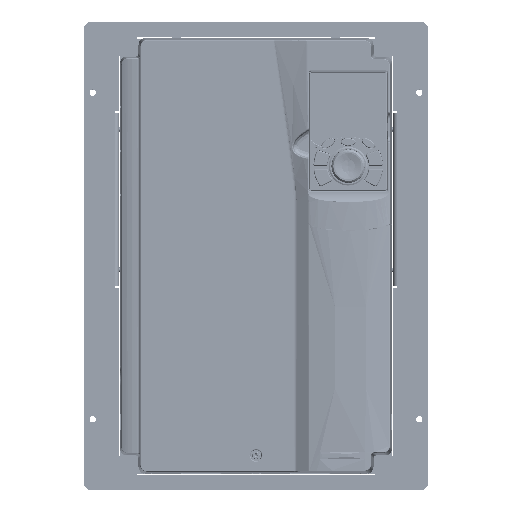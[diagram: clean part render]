
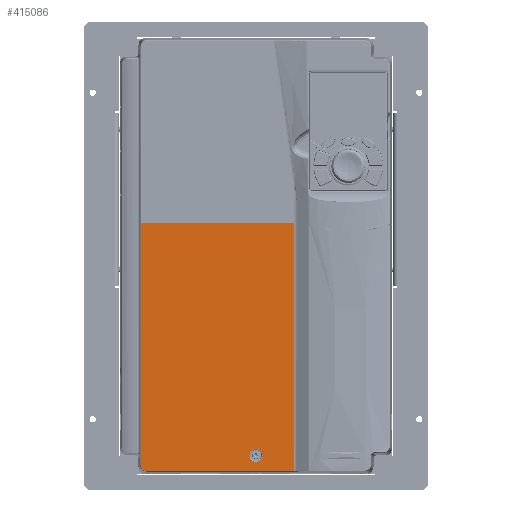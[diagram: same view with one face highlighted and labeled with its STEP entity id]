
A CAD part, top view. The second image highlights one B-rep face of the part: STEP entity #415086.
In plain terms, the highlighted planar face has unit normal (0, 0, 1).
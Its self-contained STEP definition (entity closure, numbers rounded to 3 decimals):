
#404407=DIRECTION('',(0.,1.,0.));
#404408=VECTOR('',#404407,222.335);
#404409=CARTESIAN_POINT('',(-105.796,-192.304,33.));
#404410=LINE('',#404409,#404408);
#404411=DIRECTION('',(1.,0.,0.));
#404412=VECTOR('',#404411,140.653);
#404413=CARTESIAN_POINT('',(-105.796,30.031,33.));
#404414=LINE('',#404413,#404412);
#404415=DIRECTION('',(-1.,0.,0.));
#404416=VECTOR('',#404415,135.16);
#404417=CARTESIAN_POINT('',(34.857,-197.796,
33.));
#404418=LINE('',#404417,#404416);
#404419=CARTESIAN_POINT('',(-100.304,-197.796,33.));
#404420=CARTESIAN_POINT('',(-100.484,-197.796,33.));
#404421=CARTESIAN_POINT('',(-100.843,-197.778,33.));
#404422=CARTESIAN_POINT('',(-101.378,-197.699,33.));
#404423=CARTESIAN_POINT('',(-101.902,-197.568,33.));
#404424=CARTESIAN_POINT('',(-102.411,-197.386,33.));
#404425=CARTESIAN_POINT('',(-102.899,-197.155,33.));
#404426=CARTESIAN_POINT('',(-103.361,-196.878,33.));
#404427=CARTESIAN_POINT('',(-103.795,-196.557,33.));
#404428=CARTESIAN_POINT('',(-104.195,-196.195,33.));
#404429=CARTESIAN_POINT('',(-104.557,-195.795,33.));
#404430=CARTESIAN_POINT('',(-104.878,-195.361,33.));
#404431=CARTESIAN_POINT('',(-105.155,-194.899,33.));
#404432=CARTESIAN_POINT('',(-105.386,-194.411,33.));
#404433=CARTESIAN_POINT('',(-105.568,-193.902,33.));
#404434=CARTESIAN_POINT('',(-105.699,-193.378,33.));
#404435=CARTESIAN_POINT('',(-105.778,-192.843,33.));
#404436=CARTESIAN_POINT('',(-105.796,-192.484,33.));
#404437=CARTESIAN_POINT('',(-105.796,-192.304,33.));
#404439=CARTESIAN_POINT('',(0.,-183.4,33.));
#404440=DIRECTION('',(0.,0.,-1.));
#404441=DIRECTION('',(-1.,0.,0.));
#404442=AXIS2_PLACEMENT_3D('',#404439,#404440,#404441);
#404444=CARTESIAN_POINT('',(0.,-183.4,33.));
#404445=DIRECTION('',(0.,0.,-1.));
#404446=DIRECTION('',(1.,0.,0.));
#404447=AXIS2_PLACEMENT_3D('',#404444,#404445,#404446);
#409212=DIRECTION('',(0.,1.,0.));
#409213=VECTOR('',#409212,227.827);
#409214=CARTESIAN_POINT('',(34.857,-197.796,
33.));
#409215=LINE('',#409214,#409213);
#412082=VERTEX_POINT('',#404419);
#412083=VERTEX_POINT('',#404437);
#412106=CARTESIAN_POINT('',(34.857,-197.796,
33.));
#412107=VERTEX_POINT('',#412106);
#412140=CARTESIAN_POINT('',(-105.796,30.031,33.));
#412141=VERTEX_POINT('',#412140);
#412152=CARTESIAN_POINT('',(34.857,30.031,33.));
#412153=VERTEX_POINT('',#412152);
#412580=CARTESIAN_POINT('',(-6.,-183.4,33.));
#412581=CARTESIAN_POINT('',(6.,-183.4,33.));
#412582=VERTEX_POINT('',#412580);
#412583=VERTEX_POINT('',#412581);
#415064=CARTESIAN_POINT('',(-108.,-200.,33.));
#415065=DIRECTION('',(0.,0.,1.));
#415066=DIRECTION('',(1.,0.,0.));
#415067=AXIS2_PLACEMENT_3D('',#415064,#415065,#415066);
#415068=PLANE('',#415067);
#415070=ORIENTED_EDGE('',*,*,#415069,.T.);
#415072=ORIENTED_EDGE('',*,*,#415071,.T.);
#415074=ORIENTED_EDGE('',*,*,#415073,.F.);
#415076=ORIENTED_EDGE('',*,*,#415075,.T.);
#415078=ORIENTED_EDGE('',*,*,#415077,.T.);
#415079=EDGE_LOOP('',(#415070,#415072,#415074,#415076,#415078));
#415080=FACE_OUTER_BOUND('',#415079,.F.);
#415082=ORIENTED_EDGE('',*,*,#415081,.F.);
#415083=ORIENTED_EDGE('',*,*,#415054,.F.);
#415084=EDGE_LOOP('',(#415082,#415083));
#415085=FACE_BOUND('',#415084,.F.);
#404438=B_SPLINE_CURVE_WITH_KNOTS('',3,(#404419,#404420,#404421,#404422,#404423,
#404424,#404425,#404426,#404427,#404428,#404429,#404430,#404431,#404432,#404433,
#404434,#404435,#404436,#404437),.UNSPECIFIED.,.F.,.F.,(4,1,1,1,1,1,1,1,1,1,1,1,
1,1,1,1,4),(0.,0.063,0.125,0.188,0.25,0.313,0.375,0.438,
0.5,0.563,0.625,0.688,0.75,0.813,0.875,0.938,1.),
.UNSPECIFIED.);
#404443=CIRCLE('',#404442,6.);
#404448=CIRCLE('',#404447,6.);
#415054=EDGE_CURVE('',#412583,#412582,#404448,.T.);
#415069=EDGE_CURVE('',#412083,#412141,#404410,.T.);
#415071=EDGE_CURVE('',#412141,#412153,#404414,.T.);
#415073=EDGE_CURVE('',#412107,#412153,#409215,.T.);
#415075=EDGE_CURVE('',#412107,#412082,#404418,.T.);
#415077=EDGE_CURVE('',#412082,#412083,#404438,.T.);
#415081=EDGE_CURVE('',#412582,#412583,#404443,.T.);
#415086=ADVANCED_FACE('',(#415080,#415085),#415068,.T.);
